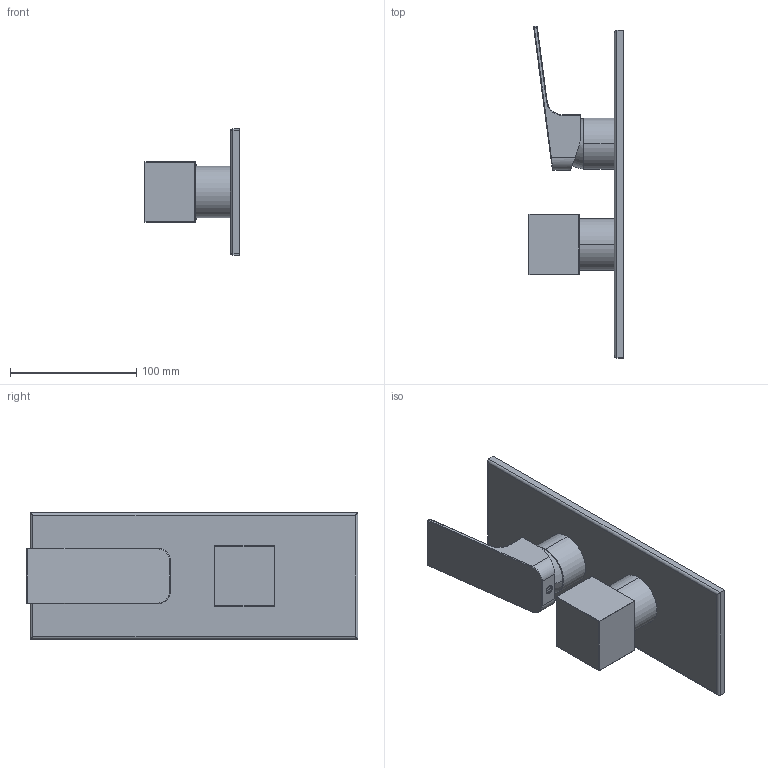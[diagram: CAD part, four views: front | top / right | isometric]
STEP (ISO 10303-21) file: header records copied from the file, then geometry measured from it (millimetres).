
FILE_DESCRIPTION((''),'2;1');
FILE_NAME('F3389X6_FILE_3D','2020-01-23T',('ivanv'),(''),'CREO PARAMETRIC BY PTC INC, 2016260','CREO PARAMETRIC BY PTC INC, 2016260','');
FILE_SCHEMA(('CONFIG_CONTROL_DESIGN'));
Products named in the file (1): F3389X6_FILE_3D
Bounding box: 75 x 263.34 x 100 mm (x, y, z)
Volume: 102270.3 mm3; surface area: 120658.1 mm2
Topology: 5 solids, 5 shells, 1470 faces, 3954 edges, 2521 vertices
Faces by surface type: plane 903, cylinder 220, bspline 106, extrusion 79, cone 65, torus 55, sphere 42
Entity records: 65820 total; most frequent: CARTESIAN_POINT 30216, ORIENTED_EDGE 7888, DIRECTION 6523, EDGE_CURVE 3944, VECTOR 2861, LINE 2782, VERTEX_POINT 2521, AXIS2_PLACEMENT_3D 1831
